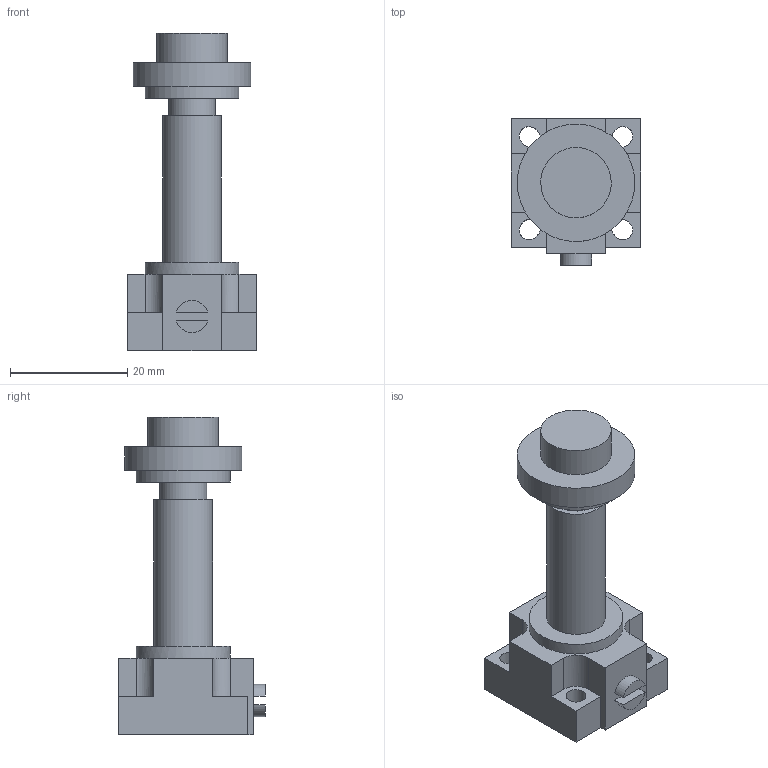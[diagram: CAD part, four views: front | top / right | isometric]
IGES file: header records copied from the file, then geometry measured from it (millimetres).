
Global section: file name: M2; native system: Autodesk Inventor 2014; preprocessor: unknown; organization: Pneumax S.p.A.; date: 20161003.112929; units: millimetre
Bounding box: 22 x 25 x 54 mm (x, y, z)
Volume: 10035.1 mm3; surface area: 4443 mm2
Topology: 1 solids, 1 shells, 60 faces, 161 edges, 112 vertices
Faces by surface type: bspline 60
